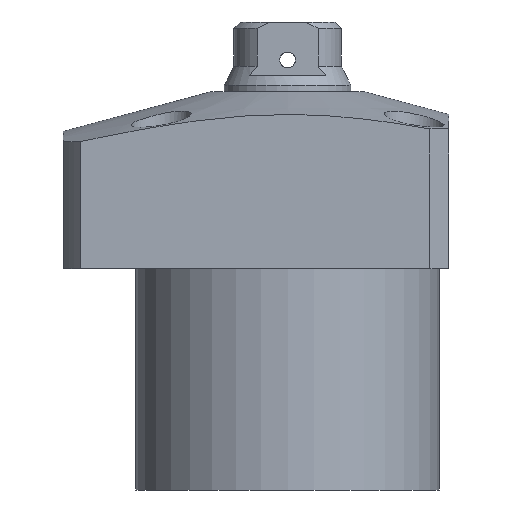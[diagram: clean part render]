
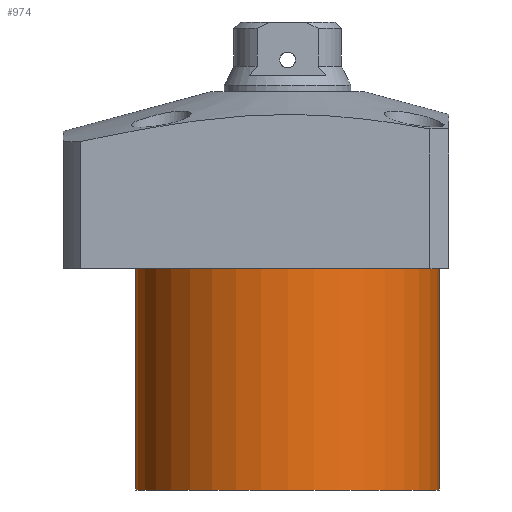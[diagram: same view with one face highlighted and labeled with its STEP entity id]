
A CAD part, front view. The second image highlights one B-rep face of the part: STEP entity #974.
In plain terms, the highlighted cylindrical face has radius 24 mm (diameter 48 mm), a partial arc.
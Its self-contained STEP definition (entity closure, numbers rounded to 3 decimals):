
#58 = EDGE_CURVE ( 'NONE', #1913, #1159, #2132, .T. ) ;
#406 = FACE_OUTER_BOUND ( 'NONE', #1122, .T. ) ;
#415 = ORIENTED_EDGE ( 'NONE', *, *, #1227, .T. ) ;
#532 = DIRECTION ( 'NONE',  ( -1., 0., 0. ) ) ;
#597 = ORIENTED_EDGE ( 'NONE', *, *, #58, .T. ) ;
#666 = DIRECTION ( 'NONE',  ( 0., 0., -1. ) ) ;
#767 = CARTESIAN_POINT ( 'NONE',  ( 24., 0., -49. ) ) ;
#878 = CARTESIAN_POINT ( 'NONE',  ( -24., 0., -49. ) ) ;
#890 = DIRECTION ( 'NONE',  ( 0., 0., 1. ) ) ;
#934 = VECTOR ( 'NONE', #2688, 1000. ) ;
#974 = ADVANCED_FACE ( 'NONE', ( #406 ), #2455, .T. ) ;
#1108 = DIRECTION ( 'NONE',  ( 1., 0., 0. ) ) ;
#1122 = EDGE_LOOP ( 'NONE', ( #1244, #1473, #597, #415 ) ) ;
#1142 = CARTESIAN_POINT ( 'NONE',  ( 0., 0., -49. ) ) ;
#1159 = VERTEX_POINT ( 'NONE', #1252 ) ;
#1227 = EDGE_CURVE ( 'NONE', #1159, #2692, #2651, .T. ) ;
#1244 = ORIENTED_EDGE ( 'NONE', *, *, #2299, .F. ) ;
#1252 = CARTESIAN_POINT ( 'NONE',  ( 24., 0., -14. ) ) ;
#1280 = CARTESIAN_POINT ( 'NONE',  ( 0., 0., -14. ) ) ;
#1322 = VERTEX_POINT ( 'NONE', #878 ) ;
#1473 = ORIENTED_EDGE ( 'NONE', *, *, #2083, .F. ) ;
#1580 = AXIS2_PLACEMENT_3D ( 'NONE', #1924, #2134, #1108 ) ;
#1598 = CIRCLE ( 'NONE', #1899, 24. ) ;
#1756 = AXIS2_PLACEMENT_3D ( 'NONE', #1280, #666, #2531 ) ;
#1899 = AXIS2_PLACEMENT_3D ( 'NONE', #1142, #2609, #532 ) ;
#1912 = CARTESIAN_POINT ( 'NONE',  ( 24., 0., -49. ) ) ;
#1913 = VERTEX_POINT ( 'NONE', #767 ) ;
#1924 = CARTESIAN_POINT ( 'NONE',  ( 0., 0., -49. ) ) ;
#2083 = EDGE_CURVE ( 'NONE', #1913, #1322, #1598, .T. ) ;
#2132 = LINE ( 'NONE', #1912, #2351 ) ;
#2134 = DIRECTION ( 'NONE',  ( 0., 0., 1. ) ) ;
#2211 = LINE ( 'NONE', #2257, #934 ) ;
#2224 = CARTESIAN_POINT ( 'NONE',  ( -24., 0., -14. ) ) ;
#2257 = CARTESIAN_POINT ( 'NONE',  ( -24., 0., -49. ) ) ;
#2299 = EDGE_CURVE ( 'NONE', #1322, #2692, #2211, .T. ) ;
#2351 = VECTOR ( 'NONE', #890, 1000. ) ;
#2455 = CYLINDRICAL_SURFACE ( 'NONE', #1580, 24. ) ;
#2531 = DIRECTION ( 'NONE',  ( 1., 0., 0. ) ) ;
#2609 = DIRECTION ( 'NONE',  ( 0., 0., -1. ) ) ;
#2651 = CIRCLE ( 'NONE', #1756, 24. ) ;
#2688 = DIRECTION ( 'NONE',  ( 0., 0., 1. ) ) ;
#2692 = VERTEX_POINT ( 'NONE', #2224 ) ;
